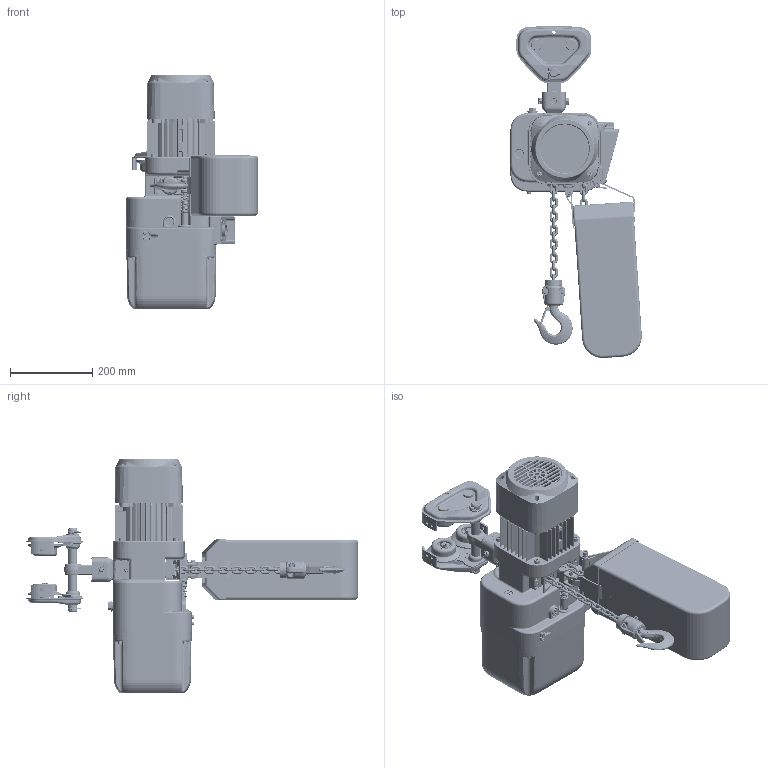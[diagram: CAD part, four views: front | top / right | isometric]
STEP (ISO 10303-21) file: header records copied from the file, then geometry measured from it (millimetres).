
FILE_DESCRIPTION (( 'STEP AP214' ), '1' );
FILE_NAME ('NER2P005LD.STEP', '2026-08-11T14:34:46', ( '' ), ( '' ), 'SwSTEP 2.0', 'SolidWorks 2026', '' );
FILE_SCHEMA (( 'AUTOMOTIVE_DESIGN' ));
Length unit declared in the file: inch
Products named in the file (79): ER2CI9104_ER2CI9104; T7G115005; J1BG10601212_B18.3.1M - 6 x 1.0 x 12 Hex SHCS -- 12CHX; ER2DS5403; ER2CS9015; ER2CS9121; ER2CI2523; T7G117005; ER2CI2564; J1AP2-4001212.SLDASM; 9009414-5_9009414-5; T7PA0055112; LCER2005NP (SHAPED); Spring Lock Washer for M4; ES558003; ER2CI9185_ER2CI9185; J1BY9-0602525_B18.2.3.1M - Hex cap screw, M6 x 1.0 x 25 --25C; J1NA001-20060_B18.2.4.1M - Hex nut, Style 1,  M6 x 1 --D-C; T6G5102005; LCER2005NP; ER2CS9103; ES127005S; ER2CS9338; T6PA0059102; Socket Head Cap Screw_AM_B18.3.1M - 6 x 1.0 x 16 Hex SHCS -- 16NHX; ER2CS9331; ER2CS1002; T7PA0059141; ER2CS9011; NER2005LD_FOR PUSH TROLLEY; ER2CS1011; 9012709_Rectangular section spring washer BS 4464 - 16 (Type B); L3183008_CASTLENUT_J1NL001-10100; T7PA0059142; 9091275_B18.3.1M - 8 x 1.25 x 35 Hex SHCS -- 35CHX; ER1CS9032; ER2BHM05S9A5; ER2CI2104; ER1CS1041; NER2P005LD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
Assembly tree (159 placements, depth 5):
  NER2P005LD
    PTS2005_4" FLANGE
      T7PA0055112  x2
        T6PA0059112
        T6PA0059103
        T6PA0059113
        T7PA0059141
        T7PA0059142
      T7G115005
      T6G5102005  x4
        T6PA0059102
        6202Z Bearing
      9009413_9009413  x4
      T7G117005
      T6G156005  x2
      split pin (metric) as  x2
      T6G800005P
      T3P154020_T3P154020  x4
    NER2005LD_FOR PUSH TROLLEY
      ER2CI2104
        ER2CI9104_ER2CI9104
        ER2CI9185_ER2CI9185
        J1AP24001212  x4
          Spring Lock Washer for M4
          J1AP2-4001212.SLDASM
      ER2CL9105
      ER2CL9107_ER2CL9107
      ER2CS9101
      ER2CS9103
      ER2CS1011
        ER2CS9011
        ER2CS1002
        ER2CS2015
          ER2CS9015  x2
          J1BY9-0602525_B18.2.3.1M - Hex cap screw, M6 x 1.0 x 25 --25C  x2
          J1WS011-20060_Rectangular section spring washer BS 4464 - 16 (Type B)  x2
          J1NA001-20060_B18.2.4.1M - Hex nut, Style 1,  M6 x 1 --D-C  x2
      ER2CS9331
      ER2CS9337
      ER2CS9338
      ER2CS9357
      ER2CS9121  x2
      ER1CS1041
      ER2CS9186
      ER2CS9123
      LCER2005NP
        LCER2005NP  x14
      ER2CS9511
      ER2CI2523
      ER2CI2564
      ES127005S
      ER1BS9135
      E3S112003  x2
      E3S111003  x2
      9091234_B18.3.1M - 5 x 0.8 x 45 Hex SHCS -- 22CHX  x4
      9091275_B18.3.1M - 8 x 1.25 x 35 Hex SHCS -- 35CHX  x4
      J1BG10601212_B18.3.1M - 6 x 1.0 x 12 Hex SHCS -- 12CHX  x2
      9012709_Rectangular section spring washer BS 4464 - 16 (Type B)  x4
      9091251_9091251  x4
      MS561010  x6
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Bounding box: 319.08 x 805.55 x 566.96 mm (x, y, z)
Volume: 15347908 mm3; surface area: 2111622 mm2
Topology: 176 solids, 192 shells, 9584 faces, 24474 edges, 15281 vertices
Faces by surface type: plane 3665, cylinder 3101, torus 1143, bspline 849, cone 689, sphere 137
Entity records: 236106 total; most frequent: CARTESIAN_POINT 80137, ORIENTED_EDGE 31426, DIRECTION 31032, EDGE_CURVE 15715, AXIS2_PLACEMENT_3D 12105, VERTEX_POINT 9919, VECTOR 6822, LINE 6822
